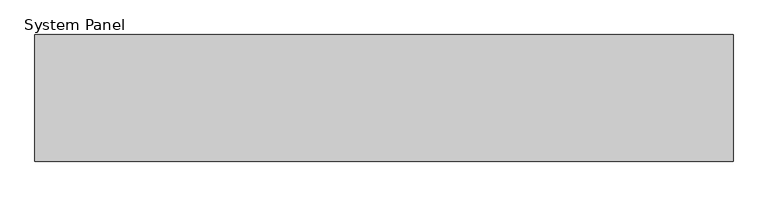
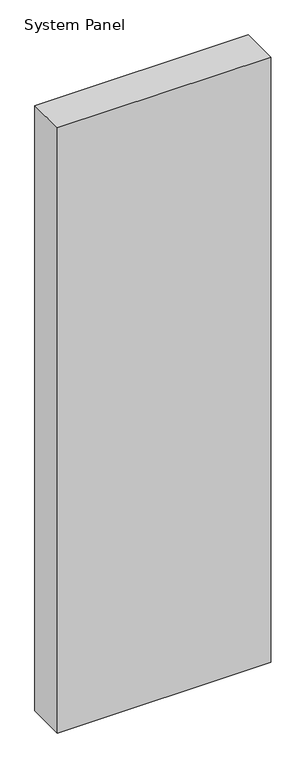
"""IFC4 building model written with IfcOpenShell, lengths in millimetres: plate geometry, System Panel : MetecnoPanel_200mm_Plain_Surfmist."""

import ifcopenshell
import ifcopenshell.guid

model = None  # the IFC model being written
_history = None  # IfcOwnerHistory: only IFC2X3 demands one
_inside = {}  # id of a spatial element -> (the spatial element, [elements in it])
_under = {}  # id of a project, library or spatial element -> (it, [spatial elements below it])
_declared = {}  # id of a project -> (the project, [libraries it declares])
_typed = {}  # id of a type object -> (the type object, [elements of that type])
_made_of = {}  # id of a material, layer set ... -> (it, [elements and type objects made of it])


def new_model(schema):
    """Start an empty IFC model of exactly this schema.

    Asked for "IFC4X3", IfcOpenShell would pick the latest addendum, in which some entities
    have other attributes; the version numbers below select the first issue.
    IFC2X3 requires an IfcOwnerHistory on every rooted entity: one is made here for all.
    """
    global model, _history
    if schema == "IFC4X3":
        model = ifcopenshell.file(schema_version=(4, 3, 0, 0))
    else:
        model = ifcopenshell.file(schema=schema)
    _inside.clear()
    _under.clear()
    _declared.clear()
    _typed.clear()
    _made_of.clear()
    _history = None
    if model.schema == "IFC2X3":
        org = make("IfcOrganization", Name="unknown")
        user = make(
            "IfcPersonAndOrganization",
            ThePerson=make("IfcPerson", FamilyName="unknown"),
            TheOrganization=org,
        )
        app = make(
            "IfcApplication",
            ApplicationDeveloper=org,
            Version="unknown",
            ApplicationFullName="unknown",
            ApplicationIdentifier="unknown",
        )
        _history = make(
            "IfcOwnerHistory",
            OwningUser=user,
            OwningApplication=app,
            ChangeAction="ADDED",
            CreationDate=0,
        )
    return model


def make(cls, **values):
    """One entity of the class cls with the attributes given. An attribute that is None is left unset."""
    return model.create_entity(
        cls, **{name: value for name, value in values.items() if value is not None}
    )


def rooted(cls, **values):
    """An entity with a GlobalId (a new one), such as an element, a storey or a relation."""
    return make(cls, GlobalId=ifcopenshell.guid.new(), OwnerHistory=_history, **values)


def si_unit(unit_type, name, prefix=None):
    """IfcSIUnit, for example si_unit("LENGTHUNIT", "METRE", prefix="MILLI")."""
    return make("IfcSIUnit", UnitType=unit_type, Prefix=prefix, Name=name)


def assignment(units):
    """IfcUnitAssignment: the units of a project."""
    return None if units is None else make("IfcUnitAssignment", Units=units)


def point(xyz):
    """IfcCartesianPoint."""
    return None if xyz is None else make("IfcCartesianPoint", Coordinates=xyz)


def direction(xyz):
    """IfcDirection."""
    return None if xyz is None else make("IfcDirection", DirectionRatios=xyz)


def frame(location, z_axis=None, x_axis=None):
    """IfcAxis2Placement3D, a coordinate frame: its origin and axes. An axis left out is left unset."""
    return make(
        "IfcAxis2Placement3D",
        Location=point(location),
        Axis=direction(z_axis),
        RefDirection=direction(x_axis),
    )


def origin():
    """The frame at (0, 0, 0) with its axes left unset."""
    return frame((0.0, 0.0, 0.0))


def origin_with_axes():
    """The frame at (0, 0, 0) with the z axis (0, 0, 1) and the x axis (1, 0, 0) written out."""
    return frame((0.0, 0.0, 0.0), z_axis=(0.0, 0.0, 1.0), x_axis=(1.0, 0.0, 0.0))


def place(relative_to, where):
    """IfcLocalPlacement: puts the frame where relative to a parent placement (None: the world)."""
    return make(
        "IfcLocalPlacement", PlacementRelTo=relative_to, RelativePlacement=where
    )


def context(
    kind, dimensions, precision=None, world=None, true_north=None, identifier=None
):
    """IfcGeometricRepresentationContext, for example the 3D "Model" context."""
    return make(
        "IfcGeometricRepresentationContext",
        ContextIdentifier=identifier,
        ContextType=kind,
        CoordinateSpaceDimension=dimensions,
        Precision=precision,
        WorldCoordinateSystem=world,
        TrueNorth=true_north,
    )


def project(units=None, contexts=None):
    """IfcProject with its units and contexts."""
    return rooted(
        "IfcProject",
        Name="project",
        RepresentationContexts=contexts,
        UnitsInContext=assignment(units),
    )


def spatial(cls, under=None, at=None, **own):
    """A site, building, storey or space (cls), placed at a placement, below another one or the project."""
    s = rooted(cls, ObjectPlacement=at, **own)
    if under is not None:
        _under.setdefault(under.id(), (under, []))[1].append(s)
    return s


def polyline(points):
    """IfcPolyline through the points."""
    return make("IfcPolyline", Points=[point(p) for p in points])


def outline(outer, holes=None, kind="AREA"):
    """IfcArbitraryClosedProfileDef: a profile drawn as a closed curve; with holes, ...WithVoids."""
    if holes is None:
        return make("IfcArbitraryClosedProfileDef", ProfileType=kind, OuterCurve=outer)
    return make(
        "IfcArbitraryProfileDefWithVoids",
        ProfileType=kind,
        OuterCurve=outer,
        InnerCurves=holes,
    )


def extrude(swept, where, along, depth):
    """IfcExtrudedAreaSolid: the profile swept, set in the frame where, extruded along a direction by depth."""
    return make(
        "IfcExtrudedAreaSolid",
        SweptArea=swept,
        Position=where,
        ExtrudedDirection=direction(along),
        Depth=depth,
    )


def shape(context_of_items, identifier, shape_type, items):
    """IfcShapeRepresentation: the items that make up one representation, for example the "Body"."""
    return make(
        "IfcShapeRepresentation",
        ContextOfItems=context_of_items,
        RepresentationIdentifier=identifier,
        RepresentationType=shape_type,
        Items=items,
    )


def source(mapping_origin, context_of_items, identifier, shape_type, items):
    """IfcRepresentationMap: a shape defined once, which mapped items show again and again."""
    return make(
        "IfcRepresentationMap",
        MappingOrigin=mapping_origin,
        MappedRepresentation=shape(context_of_items, identifier, shape_type, items),
    )


def transform(
    local_origin,
    x_axis=None,
    y_axis=None,
    z_axis=None,
    scale=None,
    scale2=None,
    scale3=None,
    uniform=True,
):
    """IfcCartesianTransformationOperator3D, or its non-uniform kind. x_axis, y_axis, z_axis: its Axis1, 2, 3."""
    if uniform:
        return make(
            "IfcCartesianTransformationOperator3D",
            Axis1=direction(x_axis),
            Axis2=direction(y_axis),
            LocalOrigin=point(local_origin),
            Scale=scale,
            Axis3=direction(z_axis),
        )
    return make(
        "IfcCartesianTransformationOperator3DnonUniform",
        Axis1=direction(x_axis),
        Axis2=direction(y_axis),
        LocalOrigin=point(local_origin),
        Scale=scale,
        Axis3=direction(z_axis),
        Scale2=scale2,
        Scale3=scale3,
    )


def mapped(mapping_source, mapping_target):
    """IfcMappedItem: shows the shape of a source again, moved by a transform."""
    return make(
        "IfcMappedItem", MappingSource=mapping_source, MappingTarget=mapping_target
    )


def made_of(thing, what):
    """Note that an element or type object is made of a material, layer set ...; save() writes the relation."""
    if what is not None:
        _made_of.setdefault(what.id(), (what, []))[1].append(thing)
    return thing


def element(
    cls,
    number,
    at=None,
    inside=None,
    cuts=None,
    type_object=None,
    material=None,
    context=None,
    identifier="Body",
    shape_type=None,
    held_by="IfcProductDefinitionShape",
    body=None,
    shapes=None,
    **own,
):
    """One element of the class cls, such as IfcWall. Its Tag is "e" and its number.

    at: its placement. inside: the storey or other place that contains it. cuts: it is an
    opening in that element (IfcRelVoidsElement). A single representation is given by context,
    identifier, shape_type and body (its items); several are given by shapes. held_by: the class
    of the entity that holds the representations. save() writes the other relations.
    """
    e = rooted(cls, Tag="e%d" % number, ObjectPlacement=at, **own)
    if body is not None:
        shapes = [shape(context, identifier, shape_type, body)]
    if shapes is not None:
        e.Representation = make(held_by, Representations=shapes)
    if inside is not None:
        _inside.setdefault(inside.id(), (inside, []))[1].append(e)
    if cuts is not None:
        rooted(
            "IfcRelVoidsElement", RelatingBuildingElement=cuts, RelatedOpeningElement=e
        )
    if type_object is not None:
        _typed.setdefault(type_object.id(), (type_object, []))[1].append(e)
    return made_of(e, material)


def aggregate(whole, parts):
    """IfcRelAggregates: a whole, such as a stair, and the parts it consists of."""
    return rooted("IfcRelAggregates", RelatingObject=whole, RelatedObjects=parts)


def save(model, path):
    """Write the relations noted so far, then the file.

    IfcRelAggregates (storeys below a building ...), IfcRelContainedInSpatialStructure (elements
    in a storey), IfcRelDefinesByType, IfcRelAssociatesMaterial and IfcRelDeclares: one each for
    every whole, place, type object, material and project.
    """
    for whole, parts in _under.values():
        aggregate(whole, parts)
    for where, things in _inside.values():
        rooted(
            "IfcRelContainedInSpatialStructure",
            RelatedElements=things,
            RelatingStructure=where,
        )
    for kind, things in _typed.values():
        rooted("IfcRelDefinesByType", RelatedObjects=things, RelatingType=kind)
    for what, things in _made_of.values():
        rooted("IfcRelAssociatesMaterial", RelatedObjects=things, RelatingMaterial=what)
    for by, libraries in _declared.values():
        rooted("IfcRelDeclares", RelatingContext=by, RelatedDefinitions=libraries)
    model.write(path)


def system_panel_894761f5(model_context):
    return source(origin(), model_context, "Body", "SweptSolid", [
        extrude(outline(polyline([(550.0, 0.0), (-550.0, 0.0), (-550.0, 200.0), (550.0, 200.0), (550.0, 0.0)])), origin_with_axes(), (0.0, 0.0, 1.0), 3300.0),
    ])


if __name__ == "__main__":
    model = new_model("IFC4")
    model_context = context("Model", 3, world=origin())
    ifc_project = project(units=[si_unit("LENGTHUNIT", "METRE", prefix="MILLI")], contexts=[model_context])
    site = spatial("IfcSite", under=ifc_project)
    building = spatial("IfcBuilding", under=site)
    placement = place(None, origin())
    system_panel_shape = system_panel_894761f5(model_context)
    element("IfcPlate", 1, ObjectType="System Panel : MetecnoPanel_200mm_Plain_Surfmist", at=placement, inside=building, context=model_context, shape_type="MappedRepresentation", body=[
        mapped(system_panel_shape, transform((0.0, 0.0, 0.0), x_axis=(1.0, 0.0, 0.0), y_axis=(0.0, 1.0, 0.0), z_axis=(0.0, 0.0, 1.0))),
    ])
    save(model, "model.ifc")
